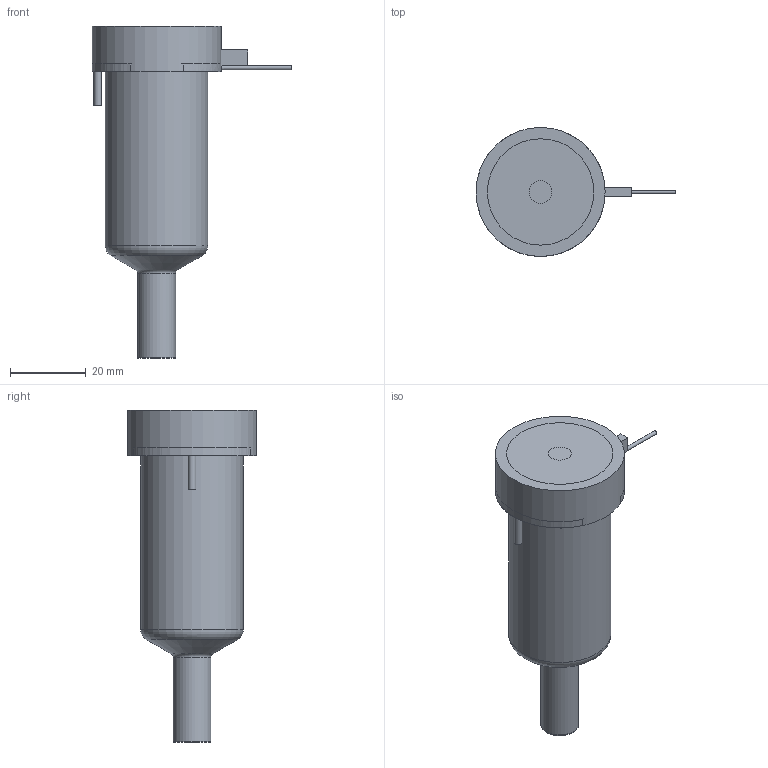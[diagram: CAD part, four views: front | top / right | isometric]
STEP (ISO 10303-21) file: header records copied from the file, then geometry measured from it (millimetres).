
FILE_DESCRIPTION(/* description */ (''),/* implementation_level */ '2;1');
FILE_NAME(/* name */ 'BXYCN13055P4F_200C_a',/* time_stamp */ '2016-02-18T15:07:58+13:00',/* author */ (''),/* organization */ (''),/* preprocessor_version */ 'ST-DEVELOPER v9',/* originating_system */ 'UGS - NX 4.0',/* authorisation */ '');
FILE_SCHEMA (('CONFIG_CONTROL_DESIGN'));
Length unit declared in the file: millimetre
Products named in the file (1): matt5E57pyqt
Bounding box: 52.65 x 34 x 87.42 mm (x, y, z)
Volume: 70551.2 mm3; surface area: 15998.4 mm2
Topology: 2 solids, 2 shells, 64 faces, 137 edges, 89 vertices
Faces by surface type: plane 29, cylinder 21, torus 7, cone 5, bspline 1, sphere 1
Full cylindrical faces by diameter (mm): 1 x2, 1.8 x1, 2 x1, 4 x1, 6 x1, 9.61 x1, 9.995 x2, 12.6 x1, 22.2 x1, 27 x1, 34 x1
Entity records: 1835 total; most frequent: CARTESIAN_POINT 464, DIRECTION 282, ORIENTED_EDGE 212, AXIS2_PLACEMENT_3D 122, EDGE_CURVE 106, EDGE_LOOP 102, VERTEX_POINT 82, ADVANCED_FACE 64
